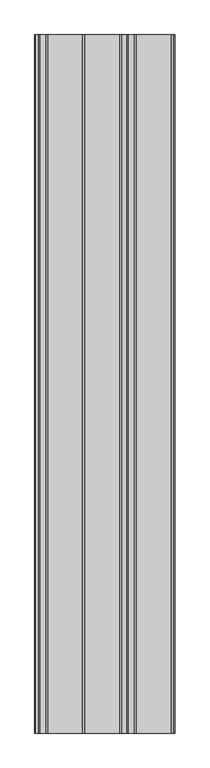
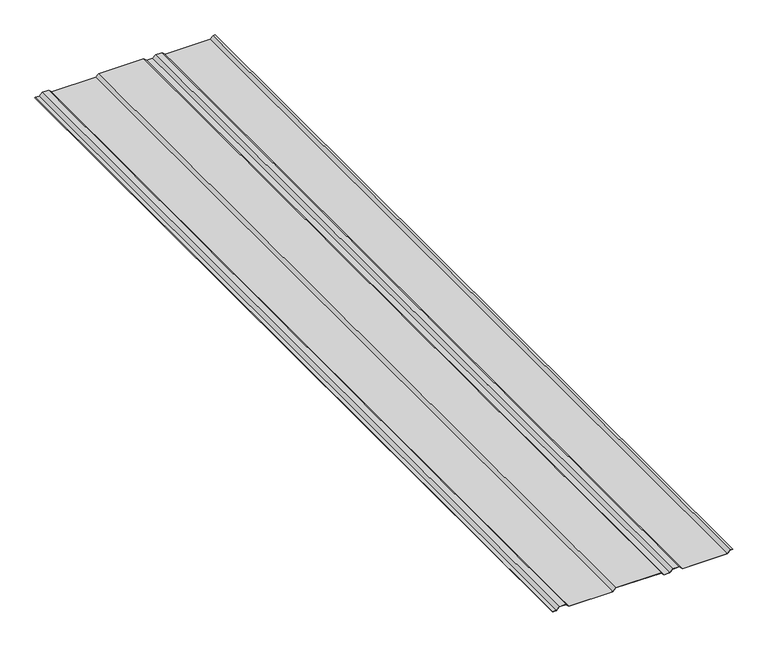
"""IFC4 building model written with IfcOpenShell, lengths in millimetres: proxy geometry, AQUAPLAST - W-Panel : RR 887 CZEKOLADOWY BRĄZ."""

from ifc_helpers import new_model, si_unit, frame, origin, place, context, project, spatial, polyline, outline, extrude, source, transform, mapped, element, save


def specialty_equipment_bb2a4659(model_context):
    return source(origin(), model_context, "Body", "SweptSolid", [
        extrude(outline(polyline([(0.0, -587.9438713), (10.0, -577.9438713), (10.0, -556.226294), (0.0, -546.226294), (0.0, -397.6417131), (10.0, -387.6417131), (10.0, -235.9241358), (0.0, -225.9241358), (0.0, -205.9241358), (10.0, -195.9241358), (10.0, -174.2065585), (0.0, -164.2065585), (0.0, -12.520379), (10.0, -2.520379), (10.0, 4.6), (10.5, 4.6), (10.5, -2.7274858), (0.5, -12.7274858), (0.5, -163.9994518), (10.5, -173.9994518), (10.5, -196.1312426), (0.5, -206.1312426), (0.5, -225.717029), (10.5, -235.717029), (10.5, -387.8488199), (0.5, -397.8488199), (0.5, -546.0191872), (10.5, -556.0191872), (10.5, -578.150978), (0.5, -588.150978), (0.5, -601.385926), (0.0, -602.1), (0.0, -587.9438713)])), frame((0.0, 0.0, 0.0), z_axis=(0.0, 1.0, 0.0), x_axis=(0.0, 0.0, 1.0)), (0.0, 0.0, 1.0), 3013.0),
    ])


if __name__ == "__main__":
    model = new_model("IFC4")
    model_context = context("Model", 3, world=origin())
    ifc_project = project(units=[si_unit("LENGTHUNIT", "METRE", prefix="MILLI")], contexts=[model_context])
    site = spatial("IfcSite", under=ifc_project)
    building = spatial("IfcBuilding", under=site)
    placement = place(None, origin())
    specialty_equipment_shape = specialty_equipment_bb2a4659(model_context)
    element("IfcBuildingElementProxy", 1, Name="AQUAPLAST - W-Panel : RR 887 CZEKOLADOWY BRĄZ", ObjectType="AQUAPLAST - W-Panel : RR 887 CZEKOLADOWY BRĄZ", at=placement, inside=building, context=model_context, shape_type="MappedRepresentation", body=[
        mapped(specialty_equipment_shape, transform((0.0, 0.0, 0.0), x_axis=(1.0, 0.0, 0.0), y_axis=(0.0, 1.0, 0.0), z_axis=(0.0, 0.0, 1.0))),
    ])
    save(model, "model.ifc")
